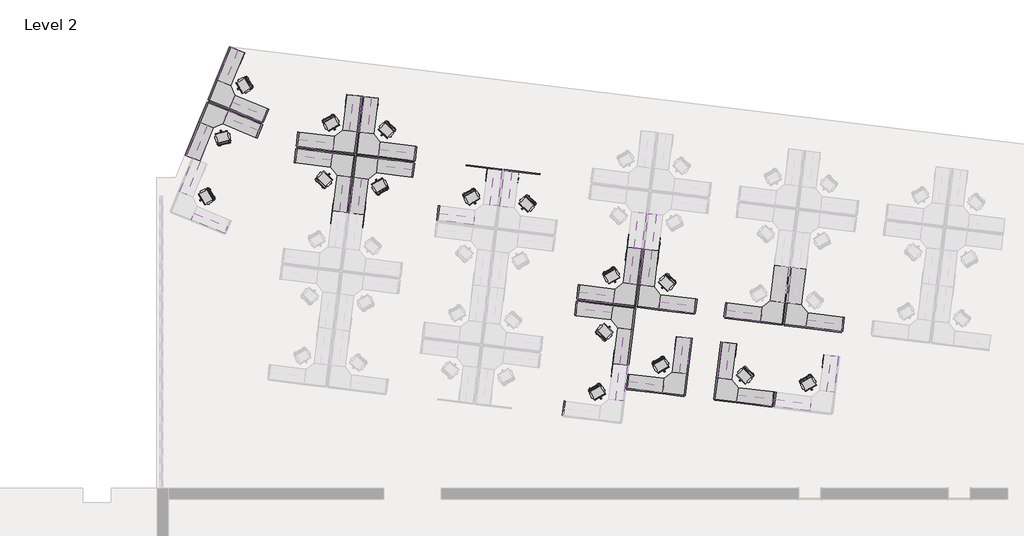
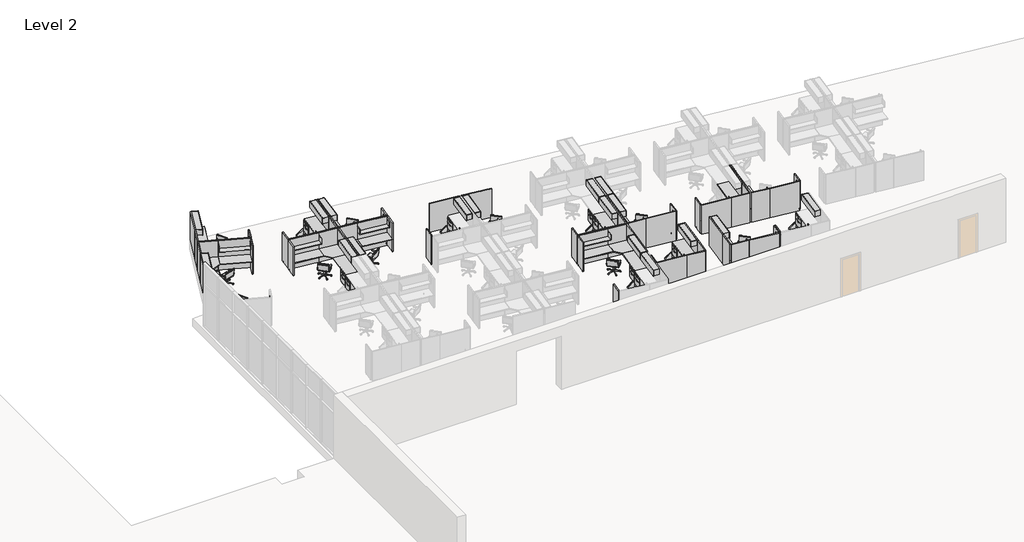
# One storey, part 6 of 7: 99 furniture elements.
"""IFC4 building model written with IfcOpenShell, lengths in millimetres."""

from ifc_helpers import new_model, si_unit, origin, place, context, project, spatial, transform, mapped, element, save
from components import chair_task_arms_chair_task_arms_3b363349, chair_task_arms_chair_task_arms_8395c10b, furniture_665347ce, furniture_3ceed070, furniture_00cef8f1, furniture_8d825890, overhead_shelving_module_overhead_shelving_module_3ee17988, overhead_shelving_module_overhead_shelving_module_7dcda1b9, overhead_storage_module_overhead_storage_module_326dc690, overhead_storage_module_overhead_storage_module_bea9f75f, furniture_0333d240, furniture_4718bb14, furniture_45e3acac, furniture_7b33082a

model = new_model("IFC4")

# Units and contexts
model_context = context("Model", 3, world=origin())
ifc_project = project(units=[si_unit("LENGTHUNIT", "METRE", prefix="MILLI")], contexts=[model_context])

# Site, building, storey
site = spatial("IfcSite", under=ifc_project)
building = spatial("IfcBuilding", under=site)
storey = spatial("IfcBuildingStorey", under=building, Name="Level 2", Elevation=3657.6)

# Furniture
placement = place(None, origin())
chair_task_arms_chair_task_arms_shape = chair_task_arms_chair_task_arms_3b363349(model_context)
element("IfcFurniture", 1, ObjectType="Chair-Task Arms : Chair-Task Arms", at=placement, inside=storey, context=model_context, shape_type="MappedRepresentation", body=[
    mapped(chair_task_arms_chair_task_arms_shape, transform((-23352.4193491, 11903.0432182, 3657.6), x_axis=(-0.7193398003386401, 0.6946583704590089, 0.0), y_axis=(-0.6946583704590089, -0.7193398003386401, 0.0), z_axis=(0.0, 0.0, 1.0))),
])
element("IfcFurniture", 2, ObjectType="Chair-Task Arms : Chair-Task Arms", at=placement, inside=storey, context=model_context, shape_type="MappedRepresentation", body=[
    mapped(chair_task_arms_chair_task_arms_shape, transform((-17391.147875, 8765.5606586, 3657.6), x_axis=(-0.7193398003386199, 0.6946583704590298, 0.0), y_axis=(-0.6946583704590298, -0.7193398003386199, 0.0), z_axis=(0.0, 0.0, 1.0))),
])
element("IfcFurniture", 3, ObjectType="Chair-Task Arms : Chair-Task Arms", at=placement, inside=storey, context=model_context, shape_type="MappedRepresentation", body=[
    mapped(chair_task_arms_chair_task_arms_shape, transform((-14358.0359457, 3469.8400502, 3657.6), x_axis=(0.7193398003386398, -0.6946583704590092, 0.0), y_axis=(0.6946583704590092, 0.7193398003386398, 0.0), z_axis=(0.0, 0.0, 1.0))),
])
element("IfcFurniture", 4, ObjectType="Chair-Task Arms : Chair-Task Arms", at=placement, inside=storey, context=model_context, shape_type="MappedRepresentation", body=[
    mapped(chair_task_arms_chair_task_arms_shape, transform((-11454.6402515, 5426.3927209, 3657.6), x_axis=(-0.7193398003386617, 0.6946583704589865, 0.0), y_axis=(-0.6946583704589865, -0.7193398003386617, 0.0), z_axis=(0.0, 0.0, 1.0))),
])
element("IfcFurniture", 5, ObjectType="Chair-Task Arms : Chair-Task Arms", at=placement, inside=storey, context=model_context, shape_type="MappedRepresentation", body=[
    mapped(chair_task_arms_chair_task_arms_shape, transform((-26255.8150433, 9946.4905474, 3657.6), x_axis=(0.7193398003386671, -0.6946583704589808, 0.0), y_axis=(0.6946583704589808, 0.7193398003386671, 0.0), z_axis=(0.0, 0.0, 1.0))),
])
element("IfcFurniture", 6, ObjectType="Chair-Task Arms : Chair-Task Arms", at=placement, inside=storey, context=model_context, shape_type="MappedRepresentation", body=[
    mapped(chair_task_arms_chair_task_arms_shape, transform((-29421.3744907, 13765.940724, 3657.6), x_axis=(-0.5113844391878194, 0.8593520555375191, 0.0), y_axis=(-0.8593520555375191, -0.5113844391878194, 0.0), z_axis=(0.0, 0.0, 1.0))),
])
element("IfcFurniture", 7, ObjectType="Chair-Task Arms : Chair-Task Arms", at=placement, inside=storey, context=model_context, shape_type="MappedRepresentation", body=[
    mapped(chair_task_arms_chair_task_arms_shape, transform((-31023.8319386, 9042.6474103, 3657.6), x_axis=(-0.5113844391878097, 0.8593520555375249, 0.0), y_axis=(-0.8593520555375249, -0.5113844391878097, 0.0), z_axis=(0.0, 0.0, 1.0))),
])
element("IfcFurniture", 8, ObjectType="Chair-Task Arms : Chair-Task Arms", at=placement, inside=storey, context=model_context, shape_type="MappedRepresentation", body=[
    mapped(chair_task_arms_chair_task_arms_shape, transform((-8151.4574, 1482.5085649, 3657.6), x_axis=(-0.7193398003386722, 0.6946583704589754, 0.0), y_axis=(-0.6946583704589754, -0.7193398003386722, 0.0), z_axis=(0.0, 0.0, 1.0))),
])
chair_task_arms_chair_task_arms_2_shape = chair_task_arms_chair_task_arms_8395c10b(model_context)
element("IfcFurniture", 9, ObjectType="Chair-Task Arms : Chair-Task Arms", at=placement, inside=storey, context=model_context, shape_type="MappedRepresentation", body=[
    mapped(chair_task_arms_chair_task_arms_2_shape, transform((-20014.7554735, 9087.6991655, 3657.6), x_axis=(0.866025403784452, 0.4999999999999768, 0.0), y_axis=(-0.4999999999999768, 0.866025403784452, 0.0), z_axis=(0.0, 0.0, 1.0))),
])
element("IfcFurniture", 10, ObjectType="Chair-Task Arms : Chair-Task Arms", at=placement, inside=storey, context=model_context, shape_type="MappedRepresentation", body=[
    mapped(chair_task_arms_chair_task_arms_2_shape, transform((-23632.2074448, 9624.3520405, 3657.6), x_axis=(-0.8660254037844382, -0.5000000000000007, 0.0), y_axis=(0.5000000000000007, -0.8660254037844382, 0.0), z_axis=(0.0, 0.0, 1.0))),
])
element("IfcFurniture", 11, ObjectType="Chair-Task Arms : Chair-Task Arms", at=placement, inside=storey, context=model_context, shape_type="MappedRepresentation", body=[
    mapped(chair_task_arms_chair_task_arms_2_shape, transform((-14078.24785, 5748.5312279, 3657.6), x_axis=(0.8660254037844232, 0.5000000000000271, 0.0), y_axis=(-0.5000000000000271, 0.8660254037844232, 0.0), z_axis=(0.0, 0.0, 1.0))),
])
element("IfcFurniture", 12, ObjectType="Chair-Task Arms : Chair-Task Arms", at=placement, inside=storey, context=model_context, shape_type="MappedRepresentation", body=[
    mapped(chair_task_arms_chair_task_arms_2_shape, transform((-14684.9621892, 807.2394665, 3657.6), x_axis=(0.8660254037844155, 0.5000000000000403, 0.0), y_axis=(-0.5000000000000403, 0.8660254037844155, 0.0), z_axis=(0.0, 0.0, 1.0))),
])
element("IfcFurniture", 13, ObjectType="Chair-Task Arms : Chair-Task Arms", at=placement, inside=storey, context=model_context, shape_type="MappedRepresentation", body=[
    mapped(chair_task_arms_chair_task_arms_2_shape, transform((-25976.0269476, 12225.1817252, 3657.6), x_axis=(0.8660254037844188, 0.5000000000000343, 0.0), y_axis=(-0.5000000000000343, 0.8660254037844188, 0.0), z_axis=(0.0, 0.0, 1.0))),
])
element("IfcFurniture", 14, ObjectType="Chair-Task Arms : Chair-Task Arms", at=placement, inside=storey, context=model_context, shape_type="MappedRepresentation", body=[
    mapped(chair_task_arms_chair_task_arms_2_shape, transform((-30290.4515264, 11640.9889674, 3657.6), x_axis=(-0.9670188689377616, -0.2547047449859, 0.0), y_axis=(0.2547047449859, -0.9670188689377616, 0.0), z_axis=(0.0, 0.0, 1.0))),
])
element("IfcFurniture", 15, ObjectType="Chair-Task Arms : Chair-Task Arms", at=placement, inside=storey, context=model_context, shape_type="MappedRepresentation", body=[
    mapped(chair_task_arms_chair_task_arms_2_shape, transform((-11985.1772665, 1953.2301754, 3657.6), x_axis=(0.8660254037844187, 0.5000000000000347, 0.0), y_axis=(-0.5000000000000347, 0.8660254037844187, 0.0), z_axis=(0.0, 0.0, 1.0))),
])
element("IfcFurniture", 16, ObjectType="Chair-Task Arms : Chair-Task Arms", at=placement, inside=storey, context=model_context, shape_type="MappedRepresentation", body=[
    mapped(chair_task_arms_chair_task_arms_2_shape, transform((-5732.9305481, 1185.5508074, 3657.6), x_axis=(0.8660254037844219, 0.5000000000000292, 0.0), y_axis=(-0.5000000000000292, 0.8660254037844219, 0.0), z_axis=(0.0, 0.0, 1.0))),
])
furniture_shape = furniture_665347ce(model_context)
element("IfcFurniture", 17, ObjectType="Cube Panel : 24\" x 66\"", at=placement, inside=storey, context=model_context, shape_type="MappedRepresentation", body=[
    mapped(furniture_shape, transform((-22264.9239048, 10971.2636434, 3657.6), x_axis=(0.12186934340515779, 0.9925461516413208, 0.0), y_axis=(-0.9925461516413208, 0.12186934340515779, 0.0), z_axis=(0.0, 0.0, 1.0))),
])
element("IfcFurniture", 18, ObjectType="Cube Panel : 24\" x 66\"", at=placement, inside=storey, context=model_context, shape_type="MappedRepresentation", body=[
    mapped(furniture_shape, transform((-15445.53139, 4401.6196249, 3657.6), x_axis=(-0.12186934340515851, -0.9925461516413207, 0.0), y_axis=(0.9925461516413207, -0.12186934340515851, 0.0), z_axis=(0.0, 0.0, 1.0))),
])
element("IfcFurniture", 19, ObjectType="Cube Panel : 24\" x 66\"", at=placement, inside=storey, context=model_context, shape_type="MappedRepresentation", body=[
    mapped(furniture_shape, transform((-10367.1448072, 4494.6131461, 3657.6), x_axis=(0.12186934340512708, 0.9925461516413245, 0.0), y_axis=(-0.9925461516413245, 0.12186934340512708, 0.0), z_axis=(0.0, 0.0, 1.0))),
])
element("IfcFurniture", 20, ObjectType="Cube Panel : 24\" x 66\"", at=placement, inside=storey, context=model_context, shape_type="MappedRepresentation", body=[
    mapped(furniture_shape, transform((-4114.8980887, 3726.9337782, 3657.6), x_axis=(0.12186934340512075, 0.9925461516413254, 0.0), y_axis=(-0.9925461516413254, 0.12186934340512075, 0.0), z_axis=(0.0, 0.0, 1.0))),
])
element("IfcFurniture", 21, ObjectType="Cube Panel : 24\" x 66\"", at=placement, inside=storey, context=model_context, shape_type="MappedRepresentation", body=[
    mapped(furniture_shape, transform((-27343.3104877, 10878.2701222, 3657.6), x_axis=(-0.12186934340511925, -0.9925461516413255, 0.0), y_axis=(0.9925461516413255, -0.12186934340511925, 0.0), z_axis=(0.0, 0.0, 1.0))),
])
element("IfcFurniture", 22, ObjectType="Cube Panel : 24\" x 66\"", at=placement, inside=storey, context=model_context, shape_type="MappedRepresentation", body=[
    mapped(furniture_shape, transform((-28617.1338204, 12581.0118393, 3657.6), x_axis=(0.37855022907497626, 0.9255807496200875, 0.0), y_axis=(-0.9255807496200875, 0.37855022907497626, 0.0), z_axis=(0.0, 0.0, 1.0))),
])
element("IfcFurniture", 23, ObjectType="Cube Panel : 24\" x 66\"", at=placement, inside=storey, context=model_context, shape_type="MappedRepresentation", body=[
    mapped(furniture_shape, transform((-7063.9619556, 550.7289902, 3657.6), x_axis=(0.12186934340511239, 0.9925461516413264, 0.0), y_axis=(-0.9925461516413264, 0.12186934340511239, 0.0), z_axis=(0.0, 0.0, 1.0))),
])
furniture_2_shape = furniture_3ceed070(model_context)
element("IfcFurniture", 24, ObjectType="Cube Panel : 24\" x 66\"", at=placement, inside=storey, context=model_context, shape_type="MappedRepresentation", body=[
    mapped(furniture_2_shape, transform((-21295.3655365, 8446.6863856, 3657.6), x_axis=(0.12186934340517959, 0.9925461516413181, 0.0), y_axis=(-0.9925461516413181, 0.12186934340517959, 0.0), z_axis=(0.0, 0.0, 1.0))),
])
element("IfcFurniture", 25, ObjectType="Cube Panel : 24\" x 66\"", at=placement, inside=storey, context=model_context, shape_type="MappedRepresentation", body=[
    mapped(furniture_2_shape, transform((-22351.5973818, 10265.3648204, 3657.6), x_axis=(-0.12186934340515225, -0.9925461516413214, 0.0), y_axis=(0.9925461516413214, -0.12186934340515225, 0.0), z_axis=(0.0, 0.0, 1.0))),
])
element("IfcFurniture", 26, ObjectType="Cube Panel : 24\" x 66\"", at=placement, inside=storey, context=model_context, shape_type="MappedRepresentation", body=[
    mapped(furniture_2_shape, transform((-15358.857913, 5107.518448, 3657.6), x_axis=(0.12186934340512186, 0.9925461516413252, 0.0), y_axis=(-0.9925461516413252, 0.12186934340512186, 0.0), z_axis=(0.0, 0.0, 1.0))),
])
element("IfcFurniture", 27, ObjectType="Cube Panel : 24\" x 66\"", at=placement, inside=storey, context=model_context, shape_type="MappedRepresentation", body=[
    mapped(furniture_2_shape, transform((-15965.5722522, 166.2266867, 3657.6), x_axis=(0.12186934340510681, 0.9925461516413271, 0.0), y_axis=(-0.9925461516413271, 0.12186934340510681, 0.0), z_axis=(0.0, 0.0, 1.0))),
])
element("IfcFurniture", 28, ObjectType="Cube Panel : 24\" x 66\"", at=placement, inside=storey, context=model_context, shape_type="MappedRepresentation", body=[
    mapped(furniture_2_shape, transform((-9106.6111946, 4339.83908, 3657.6), x_axis=(0.1218693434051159, 0.992546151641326, 0.0), y_axis=(-0.992546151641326, 0.1218693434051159, 0.0), z_axis=(0.0, 0.0, 1.0))),
])
element("IfcFurniture", 29, ObjectType="Cube Panel : 24\" x 66\"", at=placement, inside=storey, context=model_context, shape_type="MappedRepresentation", body=[
    mapped(furniture_2_shape, transform((-27256.6370106, 11584.1689453, 3657.6), x_axis=(0.12186934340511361, 0.9925461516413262, 0.0), y_axis=(-0.9925461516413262, 0.12186934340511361, 0.0), z_axis=(0.0, 0.0, 1.0))),
])
element("IfcFurniture", 30, ObjectType="Cube Panel : 24\" x 66\"", at=placement, inside=storey, context=model_context, shape_type="MappedRepresentation", body=[
    mapped(furniture_2_shape, transform((-28886.3587433, 11922.7388102, 3657.6), x_axis=(-0.37855022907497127, -0.9255807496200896, 0.0), y_axis=(0.9255807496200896, -0.37855022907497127, 0.0), z_axis=(0.0, 0.0, 1.0))),
])
element("IfcFurniture", 31, ObjectType="Cube Panel : 24\" x 66\"", at=placement, inside=storey, context=model_context, shape_type="MappedRepresentation", body=[
    mapped(furniture_2_shape, transform((-13265.7873296, 1312.2173955, 3657.6), x_axis=(0.12186934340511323, 0.9925461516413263, 0.0), y_axis=(-0.9925461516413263, 0.12186934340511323, 0.0), z_axis=(0.0, 0.0, 1.0))),
])
element("IfcFurniture", 32, ObjectType="Cube Panel : 24\" x 66\"", at=placement, inside=storey, context=model_context, shape_type="MappedRepresentation", body=[
    mapped(furniture_2_shape, transform((-7013.5406111, 544.5380275, 3657.6), x_axis=(0.12186934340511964, 0.9925461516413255, 0.0), y_axis=(-0.9925461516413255, 0.12186934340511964, 0.0), z_axis=(0.0, 0.0, 1.0))),
])
furniture_3_shape = furniture_00cef8f1(model_context)
element("IfcFurniture", 33, ObjectType="Cube Panel : 60\" x 66\"", at=placement, inside=storey, context=model_context, shape_type="MappedRepresentation", body=[
    mapped(furniture_3_shape, transform((-17729.6515591, 10184.0854738, 3657.6), x_axis=(0.9925461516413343, -0.12186934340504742, 0.0), y_axis=(0.12186934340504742, 0.9925461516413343, 0.0), z_axis=(0.0, 0.0, 1.0))),
])
furniture_4_shape = furniture_8d825890(model_context)
element("IfcFurniture", 34, ObjectType="Cube Panel : 60\" x 66\"", at=placement, inside=storey, context=model_context, shape_type="MappedRepresentation", body=[
    mapped(furniture_4_shape, transform((-19343.1345832, 10382.1962784, 3657.6), x_axis=(-0.9925461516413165, 0.12186934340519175, 0.0), y_axis=(-0.12186934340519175, -0.9925461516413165, 0.0), z_axis=(0.0, 0.0, 1.0))),
])
overhead_shelving_module_overhead_shelving_module_shape = overhead_shelving_module_overhead_shelving_module_3ee17988(model_context)
element("IfcFurniture", 35, ObjectType="Overhead Shelving Module : Overhead Shelving Module", at=placement, inside=storey, context=model_context, shape_type="MappedRepresentation", body=[
    mapped(overhead_shelving_module_overhead_shelving_module_shape, transform((-23211.4257966, 11018.3276546, 3505.2), x_axis=(-0.9925461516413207, 0.1218693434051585, 0.0), y_axis=(-0.1218693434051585, -0.9925461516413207, 0.0), z_axis=(0.0, 0.0, 1.0))),
])
element("IfcFurniture", 36, ObjectType="Overhead Shelving Module : Overhead Shelving Module", at=placement, inside=storey, context=model_context, shape_type="MappedRepresentation", body=[
    mapped(overhead_shelving_module_overhead_shelving_module_shape, transform((-14499.0294982, 4354.5556138, 3505.2), x_axis=(0.9925461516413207, -0.12186934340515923, 0.0), y_axis=(0.12186934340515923, 0.9925461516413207, 0.0), z_axis=(0.0, 0.0, 1.0))),
])
element("IfcFurniture", 37, ObjectType="Overhead Shelving Module : Overhead Shelving Module", at=placement, inside=storey, context=model_context, shape_type="MappedRepresentation", body=[
    mapped(overhead_shelving_module_overhead_shelving_module_shape, transform((-11313.646699, 4541.6771573, 3505.2), x_axis=(-0.9925461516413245, 0.1218693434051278, 0.0), y_axis=(-0.1218693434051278, -0.9925461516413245, 0.0), z_axis=(0.0, 0.0, 1.0))),
])
element("IfcFurniture", 38, ObjectType="Overhead Shelving Module : Overhead Shelving Module", at=placement, inside=storey, context=model_context, shape_type="MappedRepresentation", body=[
    mapped(overhead_shelving_module_overhead_shelving_module_shape, transform((-5061.3999806, 3773.9977893, 3505.2), x_axis=(-0.9925461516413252, 0.12186934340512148, 0.0), y_axis=(-0.12186934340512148, -0.9925461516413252, 0.0), z_axis=(0.0, 0.0, 1.0))),
])
element("IfcFurniture", 39, ObjectType="Overhead Shelving Module : Overhead Shelving Module", at=placement, inside=storey, context=model_context, shape_type="MappedRepresentation", body=[
    mapped(overhead_shelving_module_overhead_shelving_module_shape, transform((-26396.8085958, 10831.2061111, 3505.2), x_axis=(0.9925461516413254, -0.12186934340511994, 0.0), y_axis=(0.12186934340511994, 0.9925461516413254, 0.0), z_axis=(0.0, 0.0, 1.0))),
])
element("IfcFurniture", 40, ObjectType="Overhead Shelving Module : Overhead Shelving Module", at=placement, inside=storey, context=model_context, shape_type="MappedRepresentation", body=[
    mapped(overhead_shelving_module_overhead_shelving_module_shape, transform((-29517.9588301, 12875.2823856, 3505.2), x_axis=(-0.9255807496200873, 0.378550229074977, 0.0), y_axis=(-0.378550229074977, -0.9255807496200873, 0.0), z_axis=(0.0, 0.0, 1.0))),
])
element("IfcFurniture", 41, ObjectType="Overhead Shelving Module : Overhead Shelving Module", at=placement, inside=storey, context=model_context, shape_type="MappedRepresentation", body=[
    mapped(overhead_shelving_module_overhead_shelving_module_shape, transform((-31120.416278, 8151.9890719, 3505.2), x_axis=(-0.9255807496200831, 0.37855022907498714, 0.0), y_axis=(-0.37855022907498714, -0.9255807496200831, 0.0), z_axis=(0.0, 0.0, 1.0))),
])
element("IfcFurniture", 42, ObjectType="Overhead Shelving Module : Overhead Shelving Module", at=placement, inside=storey, context=model_context, shape_type="MappedRepresentation", body=[
    mapped(overhead_shelving_module_overhead_shelving_module_shape, transform((-8010.4638475, 597.7930013, 3505.2), x_axis=(-0.9925461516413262, 0.12186934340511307, 0.0), y_axis=(-0.12186934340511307, -0.9925461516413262, 0.0), z_axis=(0.0, 0.0, 1.0))),
])
overhead_shelving_module_overhead_shelving_module_2_shape = overhead_shelving_module_overhead_shelving_module_7dcda1b9(model_context)
element("IfcFurniture", 43, ObjectType="Overhead Shelving Module : Overhead Shelving Module", at=placement, inside=storey, context=model_context, shape_type="MappedRepresentation", body=[
    mapped(overhead_shelving_module_overhead_shelving_module_2_shape, transform((-20365.5929812, 8263.3728626, 3505.2), x_axis=(0.9925461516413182, -0.12186934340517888, 0.0), y_axis=(0.12186934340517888, 0.9925461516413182, 0.0), z_axis=(0.0, 0.0, 1.0))),
])
element("IfcFurniture", 44, ObjectType="Overhead Shelving Module : Overhead Shelving Module", at=placement, inside=storey, context=model_context, shape_type="MappedRepresentation", body=[
    mapped(overhead_shelving_module_overhead_shelving_module_2_shape, transform((-23281.3699372, 10448.6783434, 3505.2), x_axis=(-0.9925461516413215, 0.12186934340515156, 0.0), y_axis=(-0.12186934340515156, -0.9925461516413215, 0.0), z_axis=(0.0, 0.0, 1.0))),
])
element("IfcFurniture", 45, ObjectType="Overhead Shelving Module : Overhead Shelving Module", at=placement, inside=storey, context=model_context, shape_type="MappedRepresentation", body=[
    mapped(overhead_shelving_module_overhead_shelving_module_2_shape, transform((-14429.0853576, 4924.204925, 3505.2), x_axis=(0.9925461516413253, -0.12186934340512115, 0.0), y_axis=(0.12186934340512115, 0.9925461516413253, 0.0), z_axis=(0.0, 0.0, 1.0))),
])
element("IfcFurniture", 46, ObjectType="Overhead Shelving Module : Overhead Shelving Module", at=placement, inside=storey, context=model_context, shape_type="MappedRepresentation", body=[
    mapped(overhead_shelving_module_overhead_shelving_module_2_shape, transform((-8176.8386392, 4156.525557, 3505.2), x_axis=(0.9925461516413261, -0.12186934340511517, 0.0), y_axis=(0.12186934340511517, 0.9925461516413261, 0.0), z_axis=(0.0, 0.0, 1.0))),
])
element("IfcFurniture", 47, ObjectType="Overhead Shelving Module : Overhead Shelving Module", at=placement, inside=storey, context=model_context, shape_type="MappedRepresentation", body=[
    mapped(overhead_shelving_module_overhead_shelving_module_2_shape, transform((-26326.8644553, 11400.8554223, 3505.2), x_axis=(0.9925461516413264, -0.12186934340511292, 0.0), y_axis=(0.12186934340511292, 0.9925461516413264, 0.0), z_axis=(0.0, 0.0, 1.0))),
])
element("IfcFurniture", 48, ObjectType="Overhead Shelving Module : Overhead Shelving Module", at=placement, inside=storey, context=model_context, shape_type="MappedRepresentation", body=[
    mapped(overhead_shelving_module_overhead_shelving_module_2_shape, transform((-29735.2191327, 12344.0663453, 3505.2), x_axis=(-0.9255807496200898, 0.3785502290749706, 0.0), y_axis=(-0.3785502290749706, -0.9255807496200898, 0.0), z_axis=(0.0, 0.0, 1.0))),
])
element("IfcFurniture", 49, ObjectType="Overhead Shelving Module : Overhead Shelving Module", at=placement, inside=storey, context=model_context, shape_type="MappedRepresentation", body=[
    mapped(overhead_shelving_module_overhead_shelving_module_2_shape, transform((-12336.0147742, 1128.9038725, 3505.2), x_axis=(0.9925461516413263, -0.1218693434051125, 0.0), y_axis=(0.1218693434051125, 0.9925461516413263, 0.0), z_axis=(0.0, 0.0, 1.0))),
])
element("IfcFurniture", 50, ObjectType="Overhead Shelving Module : Overhead Shelving Module", at=placement, inside=storey, context=model_context, shape_type="MappedRepresentation", body=[
    mapped(overhead_shelving_module_overhead_shelving_module_2_shape, transform((-6083.7680558, 361.2245045, 3505.2), x_axis=(0.9925461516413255, -0.12186934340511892, 0.0), y_axis=(0.12186934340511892, 0.9925461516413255, 0.0), z_axis=(0.0, 0.0, 1.0))),
])
overhead_storage_module_overhead_storage_module_shape = overhead_storage_module_overhead_storage_module_326dc690(model_context)
element("IfcFurniture", 51, ObjectType="Overhead Storage Module : Overhead Storage Module", at=placement, inside=storey, context=model_context, shape_type="MappedRepresentation", body=[
    mapped(overhead_storage_module_overhead_storage_module_shape, transform((-24289.5709646, 12760.7269095, 3657.6), x_axis=(0.12186934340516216, 0.9925461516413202, 0.0), y_axis=(-0.9925461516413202, 0.12186934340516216, 0.0), z_axis=(0.0, 0.0, 1.0))),
])
element("IfcFurniture", 52, ObjectType="Overhead Storage Module : Overhead Storage Module", at=placement, inside=storey, context=model_context, shape_type="MappedRepresentation", body=[
    mapped(overhead_storage_module_overhead_storage_module_shape, transform((-18328.2994905, 9623.2443498, 3657.6), x_axis=(0.12186934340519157, 0.9925461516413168, 0.0), y_axis=(-0.9925461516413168, 0.12186934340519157, 0.0), z_axis=(0.0, 0.0, 1.0))),
])
element("IfcFurniture", 53, ObjectType="Overhead Storage Module : Overhead Storage Module", at=placement, inside=storey, context=model_context, shape_type="MappedRepresentation", body=[
    mapped(overhead_storage_module_overhead_storage_module_shape, transform((-12814.169991, 7553.4481202, 3657.6), x_axis=(-0.12186934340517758, -0.9925461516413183, 0.0), y_axis=(0.9925461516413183, -0.12186934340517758, 0.0), z_axis=(0.0, 0.0, 1.0))),
])
element("IfcFurniture", 54, ObjectType="Overhead Storage Module : Overhead Storage Module", at=placement, inside=storey, context=model_context, shape_type="MappedRepresentation", body=[
    mapped(overhead_storage_module_overhead_storage_module_shape, transform((-13420.8843302, 2612.1563589, 3657.6), x_axis=(-0.12186934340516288, -0.9925461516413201, 0.0), y_axis=(0.9925461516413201, -0.12186934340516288, 0.0), z_axis=(0.0, 0.0, 1.0))),
])
element("IfcFurniture", 55, ObjectType="Overhead Storage Module : Overhead Storage Module", at=placement, inside=storey, context=model_context, shape_type="MappedRepresentation", body=[
    mapped(overhead_storage_module_overhead_storage_module_shape, transform((-12391.791867, 6284.0764122, 3657.6), x_axis=(0.12186934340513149, 0.9925461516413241, 0.0), y_axis=(-0.9925461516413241, 0.12186934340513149, 0.0), z_axis=(0.0, 0.0, 1.0))),
])
element("IfcFurniture", 56, ObjectType="Overhead Storage Module : Overhead Storage Module", at=placement, inside=storey, context=model_context, shape_type="MappedRepresentation", body=[
    mapped(overhead_storage_module_overhead_storage_module_shape, transform((-25318.6634278, 9088.8068562, 3657.6), x_axis=(-0.12186934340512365, -0.992546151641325, 0.0), y_axis=(0.992546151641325, -0.12186934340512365, 0.0), z_axis=(0.0, 0.0, 1.0))),
])
element("IfcFurniture", 57, ObjectType="Overhead Storage Module : Overhead Storage Module", at=placement, inside=storey, context=model_context, shape_type="MappedRepresentation", body=[
    mapped(overhead_storage_module_overhead_storage_module_shape, transform((-30100.0430687, 14839.8510675, 3657.6), x_axis=(0.3785502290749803, 0.9255807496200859, 0.0), y_axis=(-0.9255807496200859, 0.3785502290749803, 0.0), z_axis=(0.0, 0.0, 1.0))),
])
element("IfcFurniture", 58, ObjectType="Overhead Storage Module : Overhead Storage Module", at=placement, inside=storey, context=model_context, shape_type="MappedRepresentation", body=[
    mapped(overhead_storage_module_overhead_storage_module_shape, transform((-31702.5005167, 10116.5577538, 3657.6), x_axis=(0.37855022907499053, 0.9255807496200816, 0.0), y_axis=(-0.9255807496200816, 0.37855022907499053, 0.0), z_axis=(0.0, 0.0, 1.0))),
])
element("IfcFurniture", 59, ObjectType="Overhead Storage Module : Overhead Storage Module", at=placement, inside=storey, context=model_context, shape_type="MappedRepresentation", body=[
    mapped(overhead_storage_module_overhead_storage_module_shape, transform((-9088.6090155, 2340.1922562, 3657.6), x_axis=(0.12186934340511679, 0.9925461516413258, 0.0), y_axis=(-0.9925461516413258, 0.12186934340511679, 0.0), z_axis=(0.0, 0.0, 1.0))),
])
overhead_storage_module_overhead_storage_module_2_shape = overhead_storage_module_overhead_storage_module_bea9f75f(model_context)
element("IfcFurniture", 60, ObjectType="Overhead Storage Module : Overhead Storage Module", at=placement, inside=storey, context=model_context, shape_type="MappedRepresentation", body=[
    mapped(overhead_storage_module_overhead_storage_module_2_shape, transform((-18897.9488017, 9693.1884904, 3657.6), x_axis=(0.1218693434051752, 0.9925461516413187, 0.0), y_axis=(-0.9925461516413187, 0.1218693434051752, 0.0), z_axis=(0.0, 0.0, 1.0))),
])
element("IfcFurniture", 61, ObjectType="Overhead Storage Module : Overhead Storage Module", at=placement, inside=storey, context=model_context, shape_type="MappedRepresentation", body=[
    mapped(overhead_storage_module_overhead_storage_module_2_shape, transform((-24749.0141166, 9018.8627156, 3657.6), x_axis=(-0.12186934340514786, -0.992546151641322, 0.0), y_axis=(0.992546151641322, -0.12186934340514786, 0.0), z_axis=(0.0, 0.0, 1.0))),
])
element("IfcFurniture", 62, ObjectType="Overhead Storage Module : Overhead Storage Module", at=placement, inside=storey, context=model_context, shape_type="MappedRepresentation", body=[
    mapped(overhead_storage_module_overhead_storage_module_2_shape, transform((-12961.4411782, 6354.0205527, 3657.6), x_axis=(0.12186934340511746, 0.9925461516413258, 0.0), y_axis=(-0.9925461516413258, 0.12186934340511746, 0.0), z_axis=(0.0, 0.0, 1.0))),
])
element("IfcFurniture", 63, ObjectType="Overhead Storage Module : Overhead Storage Module", at=placement, inside=storey, context=model_context, shape_type="MappedRepresentation", body=[
    mapped(overhead_storage_module_overhead_storage_module_2_shape, transform((-13568.1555174, 1412.7287914, 3657.6), x_axis=(0.1218693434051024, 0.9925461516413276, 0.0), y_axis=(-0.9925461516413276, 0.1218693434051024, 0.0), z_axis=(0.0, 0.0, 1.0))),
])
element("IfcFurniture", 64, ObjectType="Overhead Storage Module : Overhead Storage Module", at=placement, inside=storey, context=model_context, shape_type="MappedRepresentation", body=[
    mapped(overhead_storage_module_overhead_storage_module_2_shape, transform((-12244.5206798, 7483.5039797, 3657.6), x_axis=(-0.12186934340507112, -0.9925461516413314, 0.0), y_axis=(0.9925461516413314, -0.12186934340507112, 0.0), z_axis=(0.0, 0.0, 1.0))),
])
element("IfcFurniture", 65, ObjectType="Overhead Storage Module : Overhead Storage Module", at=placement, inside=storey, context=model_context, shape_type="MappedRepresentation", body=[
    mapped(overhead_storage_module_overhead_storage_module_2_shape, transform((-24859.2202758, 12830.67105, 3657.6), x_axis=(0.12186934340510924, 0.9925461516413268, 0.0), y_axis=(-0.9925461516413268, 0.12186934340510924, 0.0), z_axis=(0.0, 0.0, 1.0))),
])
element("IfcFurniture", 66, ObjectType="Overhead Storage Module : Overhead Storage Module", at=placement, inside=storey, context=model_context, shape_type="MappedRepresentation", body=[
    mapped(overhead_storage_module_overhead_storage_module_2_shape, transform((-31527.1641607, 11350.4440915, 3657.6), x_axis=(-0.3785502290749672, -0.9255807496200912, 0.0), y_axis=(0.9255807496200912, -0.3785502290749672, 0.0), z_axis=(0.0, 0.0, 1.0))),
])
element("IfcFurniture", 67, ObjectType="Overhead Storage Module : Overhead Storage Module", at=placement, inside=storey, context=model_context, shape_type="MappedRepresentation", body=[
    mapped(overhead_storage_module_overhead_storage_module_2_shape, transform((-10868.3705948, 2558.7195002, 3657.6), x_axis=(0.12186934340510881, 0.9925461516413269, 0.0), y_axis=(-0.9925461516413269, 0.12186934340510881, 0.0), z_axis=(0.0, 0.0, 1.0))),
])
element("IfcFurniture", 68, ObjectType="Overhead Storage Module : Overhead Storage Module", at=placement, inside=storey, context=model_context, shape_type="MappedRepresentation", body=[
    mapped(overhead_storage_module_overhead_storage_module_2_shape, transform((-4616.1238763, 1791.0401323, 3657.6), x_axis=(0.12186934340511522, 0.9925461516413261, 0.0), y_axis=(-0.9925461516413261, 0.12186934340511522, 0.0), z_axis=(0.0, 0.0, 1.0))),
])
furniture_5_shape = furniture_0333d240(model_context)
element("IfcFurniture", 69, ObjectType="Storage Pedestal : 20\" x 30\" x 36\"", at=placement, inside=storey, context=model_context, shape_type="MappedRepresentation", body=[
    mapped(furniture_5_shape, transform((-25017.946444, 13358.791477, 3657.6), x_axis=(0.12186934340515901, 0.9925461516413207, 0.0), y_axis=(-0.9925461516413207, 0.12186934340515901, 0.0), z_axis=(0.0, 0.0, 1.0))),
])
element("IfcFurniture", 70, ObjectType="Storage Pedestal : 20\" x 30\" x 36\"", at=placement, inside=storey, context=model_context, shape_type="MappedRepresentation", body=[
    mapped(furniture_5_shape, transform((-19056.6749698, 10221.3089174, 3657.6), x_axis=(0.12186934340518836, 0.9925461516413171, 0.0), y_axis=(-0.9925461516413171, 0.12186934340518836, 0.0), z_axis=(0.0, 0.0, 1.0))),
])
element("IfcFurniture", 71, ObjectType="Storage Pedestal : 20\" x 30\" x 36\"", at=placement, inside=storey, context=model_context, shape_type="MappedRepresentation", body=[
    mapped(furniture_5_shape, transform((-12085.7945117, 6955.3835527, 3657.6), x_axis=(-0.12186934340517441, -0.9925461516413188, 0.0), y_axis=(0.9925461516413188, -0.12186934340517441, 0.0), z_axis=(0.0, 0.0, 1.0))),
])
element("IfcFurniture", 72, ObjectType="Storage Pedestal : 20\" x 30\" x 36\"", at=placement, inside=storey, context=model_context, shape_type="MappedRepresentation", body=[
    mapped(furniture_5_shape, transform((-25624.6607832, 8417.4997157, 3657.6), x_axis=(0.12186934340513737, 0.9925461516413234, 0.0), y_axis=(-0.9925461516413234, 0.12186934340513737, 0.0), z_axis=(0.0, 0.0, 1.0))),
])
element("IfcFurniture", 73, ObjectType="Storage Pedestal : 20\" x 30\" x 36\"", at=placement, inside=storey, context=model_context, shape_type="MappedRepresentation", body=[
    mapped(furniture_5_shape, transform((-12692.5088509, 2014.0917913, 3657.6), x_axis=(-0.12186934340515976, -0.9925461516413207, 0.0), y_axis=(0.9925461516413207, -0.12186934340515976, 0.0), z_axis=(0.0, 0.0, 1.0))),
])
element("IfcFurniture", 74, ObjectType="Storage Pedestal : 20\" x 30\" x 36\"", at=placement, inside=storey, context=model_context, shape_type="MappedRepresentation", body=[
    mapped(furniture_5_shape, transform((-13120.1673463, 6882.1409797, 3657.6), x_axis=(0.12186934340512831, 0.9925461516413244, 0.0), y_axis=(-0.9925461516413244, 0.12186934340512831, 0.0), z_axis=(0.0, 0.0, 1.0))),
])
element("IfcFurniture", 75, ObjectType="Storage Pedestal : 20\" x 30\" x 36\"", at=placement, inside=storey, context=model_context, shape_type="MappedRepresentation", body=[
    mapped(furniture_5_shape, transform((-24590.2879485, 8490.7422886, 3657.6), x_axis=(-0.12186934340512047, -0.9925461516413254, 0.0), y_axis=(0.9925461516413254, -0.12186934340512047, 0.0), z_axis=(0.0, 0.0, 1.0))),
])
element("IfcFurniture", 76, ObjectType="Storage Pedestal : 20\" x 30\" x 36\"", at=placement, inside=storey, context=model_context, shape_type="MappedRepresentation", body=[
    mapped(furniture_5_shape, transform((-30645.5425477, 15608.3836851, 3657.6), x_axis=(0.37855022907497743, 0.9255807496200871, 0.0), y_axis=(-0.9255807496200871, 0.37855022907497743, 0.0), z_axis=(0.0, 0.0, 1.0))),
])
element("IfcFurniture", 77, ObjectType="Storage Pedestal : 20\" x 30\" x 36\"", at=placement, inside=storey, context=model_context, shape_type="MappedRepresentation", body=[
    mapped(furniture_5_shape, transform((-9816.9844948, 2938.2568238, 3657.6), x_axis=(0.12186934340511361, 0.9925461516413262, 0.0), y_axis=(-0.9925461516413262, 0.12186934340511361, 0.0), z_axis=(0.0, 0.0, 1.0))),
])
furniture_6_shape = furniture_4718bb14(model_context)
element("IfcFurniture", 78, ObjectType="Storage Pedestal : 20\" x 30\" x 36\"", at=placement, inside=storey, context=model_context, shape_type="MappedRepresentation", body=[
    mapped(furniture_6_shape, transform((-18046.5242731, 10097.2780076, 3657.6), x_axis=(0.1218693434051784, 0.9925461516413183, 0.0), y_axis=(-0.9925461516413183, 0.1218693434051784, 0.0), z_axis=(0.0, 0.0, 1.0))),
])
element("IfcFurniture", 79, ObjectType="Storage Pedestal : 20\" x 30\" x 36\"", at=placement, inside=storey, context=model_context, shape_type="MappedRepresentation", body=[
    mapped(furniture_6_shape, transform((-25600.4386452, 8614.7731984, 3657.6), x_axis=(-0.12186934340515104, -0.9925461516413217, 0.0), y_axis=(0.9925461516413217, -0.12186934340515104, 0.0), z_axis=(0.0, 0.0, 1.0))),
])
element("IfcFurniture", 80, ObjectType="Storage Pedestal : 20\" x 30\" x 36\"", at=placement, inside=storey, context=model_context, shape_type="MappedRepresentation", body=[
    mapped(furniture_6_shape, transform((-12110.0166496, 6758.11007, 3657.6), x_axis=(0.12186934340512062, 0.9925461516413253, 0.0), y_axis=(-0.9925461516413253, 0.12186934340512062, 0.0), z_axis=(0.0, 0.0, 1.0))),
])
element("IfcFurniture", 81, ObjectType="Storage Pedestal : 20\" x 30\" x 36\"", at=placement, inside=storey, context=model_context, shape_type="MappedRepresentation", body=[
    mapped(furniture_6_shape, transform((-12716.7309888, 1816.8183086, 3657.6), x_axis=(0.12186934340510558, 0.9925461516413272, 0.0), y_axis=(-0.9925461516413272, 0.12186934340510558, 0.0), z_axis=(0.0, 0.0, 1.0))),
])
element("IfcFurniture", 82, ObjectType="Storage Pedestal : 20\" x 30\" x 36\"", at=placement, inside=storey, context=model_context, shape_type="MappedRepresentation", body=[
    mapped(furniture_6_shape, transform((-13095.9452084, 7079.4144624, 3657.6), x_axis=(-0.1218693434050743, -0.9925461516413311, 0.0), y_axis=(0.9925461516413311, -0.1218693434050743, 0.0), z_axis=(0.0, 0.0, 1.0))),
])
element("IfcFurniture", 83, ObjectType="Storage Pedestal : 20\" x 30\" x 36\"", at=placement, inside=storey, context=model_context, shape_type="MappedRepresentation", body=[
    mapped(furniture_6_shape, transform((-24007.7957472, 13234.7605673, 3657.6), x_axis=(0.1218693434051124, 0.9925461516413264, 0.0), y_axis=(-0.9925461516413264, 0.1218693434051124, 0.0), z_axis=(0.0, 0.0, 1.0))),
])
element("IfcFurniture", 84, ObjectType="Storage Pedestal : 20\" x 30\" x 36\"", at=placement, inside=storey, context=model_context, shape_type="MappedRepresentation", body=[
    mapped(furniture_6_shape, transform((-24614.5100864, 8293.4688059, 3657.6), x_axis=(0.12186934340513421, 0.9925461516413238, 0.0), y_axis=(-0.9925461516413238, 0.12186934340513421, 0.0), z_axis=(0.0, 0.0, 1.0))),
])
element("IfcFurniture", 85, ObjectType="Storage Pedestal : 20\" x 30\" x 36\"", at=placement, inside=storey, context=model_context, shape_type="MappedRepresentation", body=[
    mapped(furniture_6_shape, transform((-10016.9460662, 2962.8090175, 3657.6), x_axis=(0.12186934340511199, 0.9925461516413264, 0.0), y_axis=(-0.9925461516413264, 0.12186934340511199, 0.0), z_axis=(0.0, 0.0, 1.0))),
])
element("IfcFurniture", 86, ObjectType="Storage Pedestal : 20\" x 30\" x 36\"", at=placement, inside=storey, context=model_context, shape_type="MappedRepresentation", body=[
    mapped(furniture_6_shape, transform((-3764.6993477, 2195.1296495, 3657.6), x_axis=(0.1218693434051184, 0.9925461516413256, 0.0), y_axis=(-0.9925461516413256, 0.1218693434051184, 0.0), z_axis=(0.0, 0.0, 1.0))),
])
furniture_7_shape = furniture_45e3acac(model_context)
element("IfcFurniture", 87, ObjectType="Work Station Cubicle : 96\" x 96\"", at=placement, inside=storey, context=model_context, shape_type="MappedRepresentation", body=[
    mapped(furniture_7_shape, transform((-25279.3963153, 11115.8448554, 3657.6), x_axis=(0.12186934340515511, 0.9925461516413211, 0.0), y_axis=(-0.9925461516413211, 0.12186934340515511, 0.0), z_axis=(0.0, 0.0, 1.0))),
])
element("IfcFurniture", 88, ObjectType="Work Station Cubicle : 96\" x 96\"", at=placement, inside=storey, context=model_context, shape_type="MappedRepresentation", body=[
    mapped(furniture_7_shape, transform((-12431.0589795, 4257.0384129, 3657.6), x_axis=(-0.12186934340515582, -0.992546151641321, 0.0), y_axis=(0.992546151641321, -0.12186934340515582, 0.0), z_axis=(0.0, 0.0, 1.0))),
])
element("IfcFurniture", 89, ObjectType="Work Station Cubicle : 96\" x 96\"", at=placement, inside=storey, context=model_context, shape_type="MappedRepresentation", body=[
    mapped(furniture_7_shape, transform((-13381.6172176, 4639.1943582, 3657.6), x_axis=(0.12186934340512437, 0.9925461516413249, 0.0), y_axis=(-0.9925461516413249, 0.12186934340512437, 0.0), z_axis=(0.0, 0.0, 1.0))),
])
element("IfcFurniture", 90, ObjectType="Work Station Cubicle : 96\" x 96\"", at=placement, inside=storey, context=model_context, shape_type="MappedRepresentation", body=[
    mapped(furniture_7_shape, transform((-7129.3704992, 3871.5149902, 3657.6), x_axis=(0.12186934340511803, 0.9925461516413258, 0.0), y_axis=(-0.9925461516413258, 0.12186934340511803, 0.0), z_axis=(0.0, 0.0, 1.0))),
])
element("IfcFurniture", 91, ObjectType="Work Station Cubicle : 96\" x 96\"", at=placement, inside=storey, context=model_context, shape_type="MappedRepresentation", body=[
    mapped(furniture_7_shape, transform((-24328.8380772, 10733.6889102, 3657.6), x_axis=(-0.12186934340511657, -0.9925461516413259, 0.0), y_axis=(0.9925461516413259, -0.12186934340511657, 0.0), z_axis=(0.0, 0.0, 1.0))),
])
element("IfcFurniture", 92, ObjectType="Work Station Cubicle : 96\" x 96\"", at=placement, inside=storey, context=model_context, shape_type="MappedRepresentation", body=[
    mapped(furniture_7_shape, transform((-31487.5283164, 13513.0971777, 3657.6), x_axis=(0.3785502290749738, 0.9255807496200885, 0.0), y_axis=(-0.9255807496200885, 0.3785502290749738, 0.0), z_axis=(0.0, 0.0, 1.0))),
])
element("IfcFurniture", 93, ObjectType="Work Station Cubicle : 96\" x 96\"", at=placement, inside=storey, context=model_context, shape_type="MappedRepresentation", body=[
    mapped(furniture_7_shape, transform((-10078.4343661, 695.3102022, 3657.6), x_axis=(0.12186934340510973, 0.9925461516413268, 0.0), y_axis=(-0.9925461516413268, 0.12186934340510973, 0.0), z_axis=(0.0, 0.0, 1.0))),
])
furniture_8_shape = furniture_7b33082a(model_context)
element("IfcFurniture", 94, ObjectType="Work Station Cubicle : 96\" x 96\"", at=placement, inside=storey, context=model_context, shape_type="MappedRepresentation", body=[
    mapped(furniture_8_shape, transform((-25311.5044396, 10854.345168, 3657.6), x_axis=(-0.12186934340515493, -0.9925461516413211, 0.0), y_axis=(0.9925461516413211, -0.12186934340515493, 0.0), z_axis=(0.0, 0.0, 1.0))),
])
element("IfcFurniture", 95, ObjectType="Work Station Cubicle : 96\" x 96\"", at=placement, inside=storey, context=model_context, shape_type="MappedRepresentation", body=[
    mapped(furniture_8_shape, transform((-12398.9508553, 4518.5381003, 3657.6), x_axis=(0.12186934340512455, 0.9925461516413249, 0.0), y_axis=(-0.9925461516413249, 0.12186934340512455, 0.0), z_axis=(0.0, 0.0, 1.0))),
])
element("IfcFurniture", 96, ObjectType="Work Station Cubicle : 96\" x 96\"", at=placement, inside=storey, context=model_context, shape_type="MappedRepresentation", body=[
    mapped(furniture_8_shape, transform((-6146.7041368, 3750.8587324, 3657.6), x_axis=(0.12186934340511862, 0.9925461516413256, 0.0), y_axis=(-0.9925461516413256, 0.12186934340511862, 0.0), z_axis=(0.0, 0.0, 1.0))),
])
element("IfcFurniture", 97, ObjectType="Work Station Cubicle : 96\" x 96\"", at=placement, inside=storey, context=model_context, shape_type="MappedRepresentation", body=[
    mapped(furniture_8_shape, transform((-24296.7299529, 10995.1885976, 3657.6), x_axis=(0.1218693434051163, 0.992546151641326, 0.0), y_axis=(-0.992546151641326, 0.1218693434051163, 0.0), z_axis=(0.0, 0.0, 1.0))),
])
element("IfcFurniture", 98, ObjectType="Work Station Cubicle : 96\" x 96\"", at=placement, inside=storey, context=model_context, shape_type="MappedRepresentation", body=[
    mapped(furniture_8_shape, transform((-31587.2624863, 13269.2404298, 3657.6), x_axis=(-0.3785502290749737, -0.9255807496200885, 0.0), y_axis=(0.9255807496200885, -0.3785502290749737, 0.0), z_axis=(0.0, 0.0, 1.0))),
])
element("IfcFurniture", 99, ObjectType="Work Station Cubicle : 96\" x 96\"", at=placement, inside=storey, context=model_context, shape_type="MappedRepresentation", body=[
    mapped(furniture_8_shape, transform((-10305.8802718, 723.2370479, 3657.6), x_axis=(0.12186934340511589, 0.992546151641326, 0.0), y_axis=(-0.992546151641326, 0.12186934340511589, 0.0), z_axis=(0.0, 0.0, 1.0))),
])

save(model, "model.ifc")
